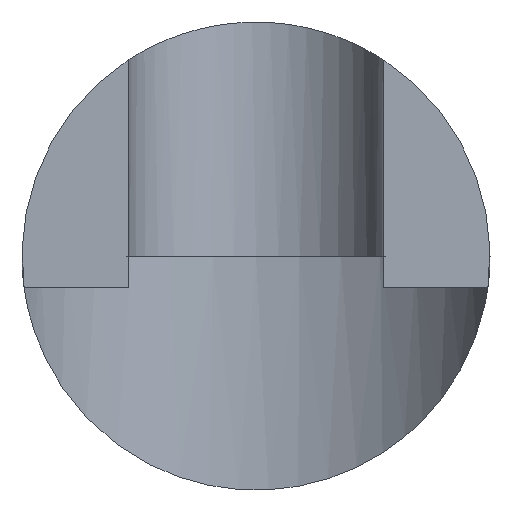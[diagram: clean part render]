
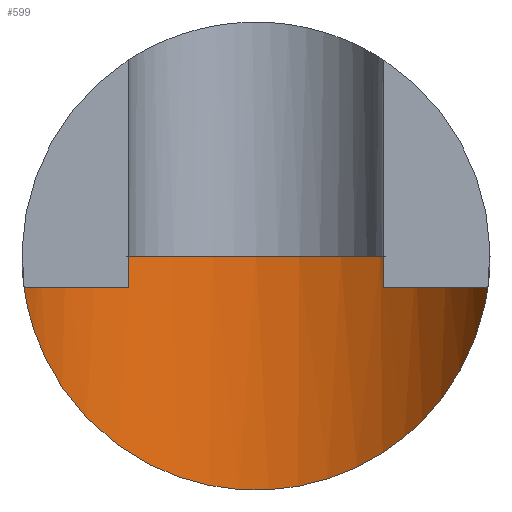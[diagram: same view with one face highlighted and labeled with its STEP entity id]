
A CAD part, front view. The second image highlights one B-rep face of the part: STEP entity #599.
In plain terms, the highlighted cylindrical face has radius 8 mm (diameter 16 mm), a partial arc.
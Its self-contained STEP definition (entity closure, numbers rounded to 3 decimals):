
#135=CARTESIAN_POINT('',(-7.5,-12.716,0.));
#136=CARTESIAN_POINT('',(-7.5,-12.716,-0.192));
#137=CARTESIAN_POINT('',(-7.485,-12.676,
-0.569));
#138=CARTESIAN_POINT('',(-7.422,-12.513,
-1.119));
#139=CARTESIAN_POINT('',(-7.328,-12.288,
-1.62));
#140=CARTESIAN_POINT('',(-7.208,-12.025,
-2.09));
#141=CARTESIAN_POINT('',(-7.069,-11.749,
-2.52));
#142=CARTESIAN_POINT('',(-6.911,-11.466,
-2.924));
#143=CARTESIAN_POINT('',(-6.73,-11.171,
-3.319));
#144=CARTESIAN_POINT('',(-6.527,-10.87,
-3.702));
#145=CARTESIAN_POINT('',(-6.313,-10.581,
-4.057));
#146=CARTESIAN_POINT('',(-6.071,-10.285,
-4.411));
#147=CARTESIAN_POINT('',(-5.774,-9.956,
-4.796));
#148=CARTESIAN_POINT('',(-5.409,-9.597,
-5.206));
#149=CARTESIAN_POINT('',(-4.963,-9.215,
-5.636));
#150=CARTESIAN_POINT('',(-4.42,-8.819,
-6.074));
#151=CARTESIAN_POINT('',(-3.758,-8.422,
-6.508));
#152=CARTESIAN_POINT('',(-2.98,-8.058,
-6.903));
#153=CARTESIAN_POINT('',(-2.093,-7.76,
-7.223));
#154=CARTESIAN_POINT('',(-1.185,-7.571,
-7.425));
#155=CARTESIAN_POINT('',(-0.276,-7.488,
-7.513));
#156=CARTESIAN_POINT('',(0.625,-7.507,
-7.492));
#157=CARTESIAN_POINT('',(1.538,-7.631,-7.36));
#158=CARTESIAN_POINT('',(2.439,-7.862,-7.113));
#159=CARTESIAN_POINT('',(3.314,-8.199,-6.75));
#160=CARTESIAN_POINT('',(4.107,-8.617,-6.296));
#161=CARTESIAN_POINT('',(4.775,-9.067,-5.801));
#162=CARTESIAN_POINT('',(5.322,-9.515,-5.3));
#163=CARTESIAN_POINT('',(5.765,-9.944,-4.81));
#164=CARTESIAN_POINT('',(6.117,-10.337,-4.35));
#165=CARTESIAN_POINT('',(6.394,-10.686,-3.93));
#166=CARTESIAN_POINT('',(6.644,-11.037,-3.492));
#167=CARTESIAN_POINT('',(6.869,-11.392,-3.026));
#168=CARTESIAN_POINT('',(7.052,-11.718,-2.567));
#169=CARTESIAN_POINT('',(7.202,-12.013,-2.11));
#170=CARTESIAN_POINT('',(7.327,-12.283,-1.63));
#171=CARTESIAN_POINT('',(7.423,-12.514,-1.117));
#172=CARTESIAN_POINT('',(7.486,-12.677,
-0.567));
#173=CARTESIAN_POINT('',(7.5,-12.716,-0.191));
#174=CARTESIAN_POINT('',(7.5,-12.716,0.));
#230=CARTESIAN_POINT('',(0.,-15.5,0.));
#231=DIRECTION('',(0.,0.,-1.));
#232=DIRECTION('',(-0.938,0.348,0.));
#233=AXIS2_PLACEMENT_3D('',#230,#231,#232);
#426=CARTESIAN_POINT('',(7.5,-12.716,0.));
#428=VERTEX_POINT('',#426);
#430=CARTESIAN_POINT('',(-7.5,-12.716,0.));
#432=VERTEX_POINT('',#430);
#589=CARTESIAN_POINT('',(0.,-15.5,0.));
#590=DIRECTION('',(0.,0.,-1.));
#591=DIRECTION('',(1.,0.,0.));
#592=AXIS2_PLACEMENT_3D('',#589,#590,#591);
#593=CYLINDRICAL_SURFACE('',#592,8.);
#594=ORIENTED_EDGE('',*,*,#581,.F.);
#596=ORIENTED_EDGE('',*,*,#595,.T.);
#597=EDGE_LOOP('',(#594,#596));
#598=FACE_OUTER_BOUND('',#597,.F.);
#599=ADVANCED_FACE('',(#598),#593,.F.);
#175=B_SPLINE_CURVE_WITH_KNOTS('',3,(#135,#136,#137,#138,#139,#140,#141,#142,
#143,#144,#145,#146,#147,#148,#149,#150,#151,#152,#153,#154,#155,#156,#157,#158,
#159,#160,#161,#162,#163,#164,#165,#166,#167,#168,#169,#170,#171,#172,#173,
#174),.UNSPECIFIED.,.F.,.F.,(4,1,1,1,1,1,1,1,1,1,1,1,1,1,1,1,1,1,1,1,1,1,1,1,1,
1,1,1,1,1,1,1,1,1,1,1,1,4),(0.,0.027,0.054,
0.081,0.108,0.135,0.162,
0.189,0.216,0.243,0.27,
0.297,0.324,0.351,0.378,
0.405,0.432,0.459,0.486,
0.514,0.541,0.568,0.595,
0.622,0.649,0.676,0.703,
0.73,0.757,0.784,0.811,
0.838,0.865,0.892,0.919,
0.946,0.973,1.),.UNSPECIFIED.);
#234=CIRCLE('',#233,8.);
#581=EDGE_CURVE('',#432,#428,#175,.T.);
#595=EDGE_CURVE('',#432,#428,#234,.T.);
